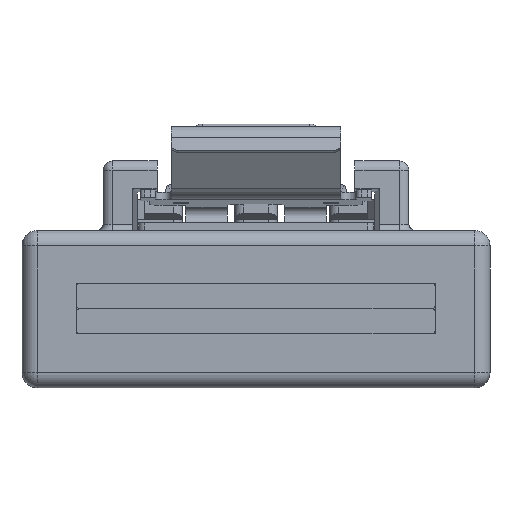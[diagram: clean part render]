
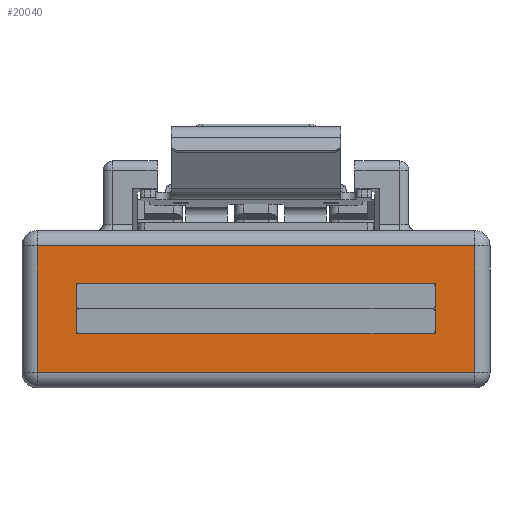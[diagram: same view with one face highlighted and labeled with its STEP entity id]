
A CAD part, front view. The second image highlights one B-rep face of the part: STEP entity #20040.
In plain terms, the highlighted planar face has unit normal (0, -1, 0) as drawn and (-1, 0, 0) by its records, which use the part's own axes.
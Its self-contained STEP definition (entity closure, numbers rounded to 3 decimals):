
#14529=DIRECTION('',(0.,-1.,0.));
#14530=VECTOR('',#14529,4.1);
#14531=CARTESIAN_POINT('',(0.2,4.83,-7.075));
#14532=LINE('',#14531,#14530);
#14548=DIRECTION('',(0.,0.,-1.));
#14549=VECTOR('',#14548,14.15);
#14550=CARTESIAN_POINT('',(0.2,4.83,7.075));
#14551=LINE('',#14550,#14549);
#14556=DIRECTION('',(0.,1.,0.));
#14557=VECTOR('',#14556,1.636);
#14558=CARTESIAN_POINT('',(0.2,1.982,5.81));
#14559=LINE('',#14558,#14557);
#14560=DIRECTION('',(0.,0.,-1.));
#14561=VECTOR('',#14560,11.62);
#14562=CARTESIAN_POINT('',(0.2,3.618,5.81));
#14563=LINE('',#14562,#14561);
#14564=DIRECTION('',(0.,0.,1.));
#14565=VECTOR('',#14564,14.15);
#14566=CARTESIAN_POINT('',(0.2,0.73,-7.075));
#14567=LINE('',#14566,#14565);
#14587=DIRECTION('',(0.,1.,0.));
#14588=VECTOR('',#14587,4.1);
#14589=CARTESIAN_POINT('',(0.2,0.73,7.075));
#14590=LINE('',#14589,#14588);
#14633=DIRECTION('',(0.,0.,-1.));
#14634=VECTOR('',#14633,11.62);
#14635=CARTESIAN_POINT('',(0.2,1.982,5.81));
#14636=LINE('',#14635,#14634);
#14681=DIRECTION('',(0.,1.,0.));
#14682=VECTOR('',#14681,1.636);
#14683=CARTESIAN_POINT('',(0.2,1.982,-5.81));
#14684=LINE('',#14683,#14682);
#18282=CARTESIAN_POINT('',(0.2,1.982,5.81));
#18283=CARTESIAN_POINT('',(0.2,3.618,5.81));
#18284=VERTEX_POINT('',#18282);
#18285=VERTEX_POINT('',#18283);
#18286=CARTESIAN_POINT('',(0.2,0.73,-7.075));
#18287=CARTESIAN_POINT('',(0.2,0.73,7.075));
#18288=VERTEX_POINT('',#18286);
#18289=VERTEX_POINT('',#18287);
#18290=CARTESIAN_POINT('',(0.2,4.83,-7.075));
#18291=VERTEX_POINT('',#18290);
#18292=CARTESIAN_POINT('',(0.2,4.83,7.075));
#18293=VERTEX_POINT('',#18292);
#18294=CARTESIAN_POINT('',(0.2,1.982,-5.81));
#18295=VERTEX_POINT('',#18294);
#18296=CARTESIAN_POINT('',(0.2,3.618,-5.81));
#18297=VERTEX_POINT('',#18296);
#20017=CARTESIAN_POINT('',(0.2,0.23,13.));
#20018=DIRECTION('',(1.,0.,0.));
#20019=DIRECTION('',(0.,1.,0.));
#20020=AXIS2_PLACEMENT_3D('',#20017,#20018,#20019);
#20021=PLANE('',#20020);
#20023=ORIENTED_EDGE('',*,*,#20022,.F.);
#20024=ORIENTED_EDGE('',*,*,#19984,.F.);
#20025=ORIENTED_EDGE('',*,*,#20008,.F.);
#20027=ORIENTED_EDGE('',*,*,#20026,.F.);
#20028=EDGE_LOOP('',(#20023,#20024,#20025,#20027));
#20029=FACE_OUTER_BOUND('',#20028,.F.);
#20031=ORIENTED_EDGE('',*,*,#20030,.F.);
#20033=ORIENTED_EDGE('',*,*,#20032,.T.);
#20035=ORIENTED_EDGE('',*,*,#20034,.T.);
#20037=ORIENTED_EDGE('',*,*,#20036,.F.);
#20038=EDGE_LOOP('',(#20031,#20033,#20035,#20037));
#20039=FACE_BOUND('',#20038,.F.);
#20040=ADVANCED_FACE('',(#20029,#20039),#20021,.F.);
#19984=EDGE_CURVE('',#18291,#18288,#14532,.T.);
#20008=EDGE_CURVE('',#18293,#18291,#14551,.T.);
#20022=EDGE_CURVE('',#18288,#18289,#14567,.T.);
#20026=EDGE_CURVE('',#18289,#18293,#14590,.T.);
#20030=EDGE_CURVE('',#18284,#18295,#14636,.T.);
#20032=EDGE_CURVE('',#18284,#18285,#14559,.T.);
#20034=EDGE_CURVE('',#18285,#18297,#14563,.T.);
#20036=EDGE_CURVE('',#18295,#18297,#14684,.T.);
